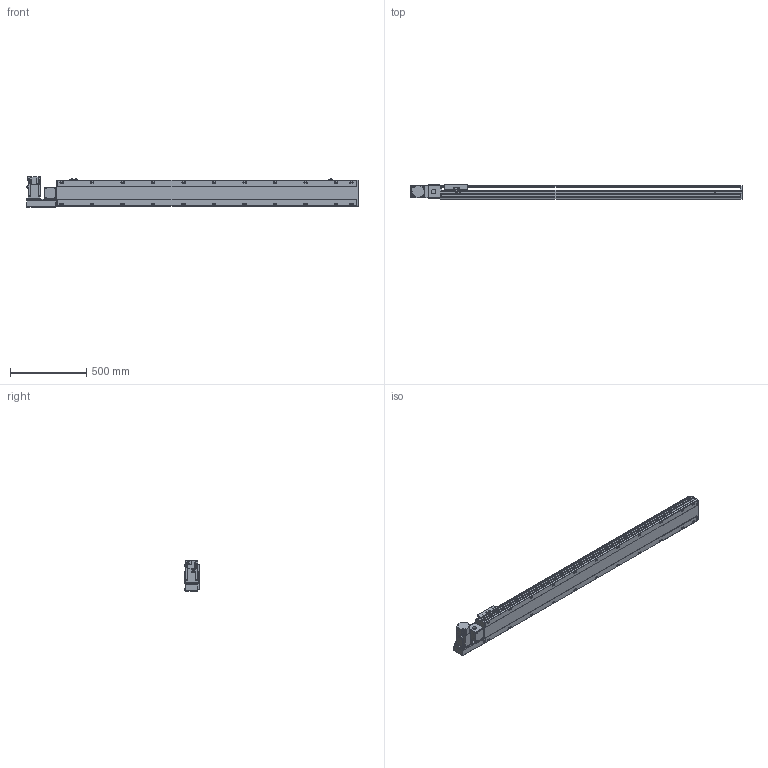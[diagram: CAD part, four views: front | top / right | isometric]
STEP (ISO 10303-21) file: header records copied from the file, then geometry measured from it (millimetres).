
FILE_DESCRIPTION( ( 'STEP AP214' ), '1' );
FILE_NAME( 'x:/temp/worker_4/temp/exporttempdir_2248_212_LdpxO/format_0/PBS170-P40-S1700-L-T75-C1-N(0).stp', '2022-06-07T06:57:38', ( 'License CC BY-ND 4.0' ), ( 'CADENAS' ), ' ', 'PARTsolutions', ' ' );
FILE_SCHEMA( ( 'AUTOMOTIVE_DESIGN { 1 0 10303 214 1 1 1 1 }' ) );
Length unit declared in the file: millimetre
Products named in the file (7): PBS170-P40-S1700-L-T75-C1-N(0); _PBS170-S1700()_body; _PBS170T-L_motors; _T75-p1; _PBS170_sliser; _PBS170_plant; _PBS170_sensor
Assembly tree (8 placements, depth 2):
  PBS170-P40-S1700-L-T75-C1-N(0)
    _PBS170-S1700()_body
    _PBS170T-L_motors
    _T75-p1
    _PBS170_sliser
    _PBS170_plant
    _PBS170_sensor  x3
Bounding box: 2178 x 97 x 197.3 mm (x, y, z)
Volume: 15977053.4 mm3; surface area: 2042360.4 mm2
Topology: 8 solids, 8 shells, 1130 faces, 2995 edges, 1952 vertices
Faces by surface type: plane 705, cylinder 363, cone 52, sphere 8, torus 2
Full cylindrical faces by diameter (mm): 3.242 x4, 4 x2, 4.4 x4, 4.5 x6, 4.917 x4, 6 x9, 6.647 x30, 7 x2, 7.5 x4, 8 x8, 8.5 x22, 10 x4, 10.5 x22, 11 x2, 30 x2, 40 x1, 70 x1
Entity records: 41666 total; most frequent: CARTESIAN_POINT 6725, DIRECTION 5510, ORIENTED_EDGE 5208, EDGE_CURVE 2604, AXIS2_PLACEMENT_3D 1927, VERTEX_POINT 1802, LINE 1656, VECTOR 1656
